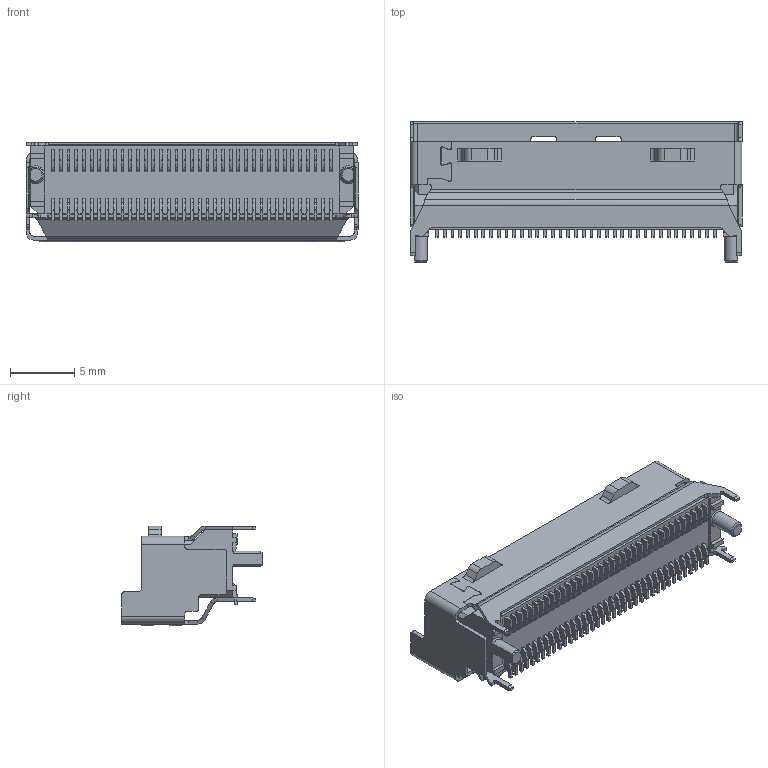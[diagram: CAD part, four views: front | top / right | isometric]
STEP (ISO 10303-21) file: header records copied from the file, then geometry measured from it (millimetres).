
FILE_DESCRIPTION((''),'2;1');
FILE_NAME('PMC074-3X0X-XXX-XH_CUSTOMER_1_1','2026-07-20T13:51:40',('39002408'),(''),'CREO PARAMETRIC BY PTC INC, 2019471','CREO PARAMETRIC BY PTC INC, 2019471','');
FILE_SCHEMA(('AUTOMOTIVE_DESIGN { 1 0 10303 214 1 1 1 1 }'));
Length unit declared in the file: millimetre
Products named in the file (1): PMC074-3X0X-XXX-XH_CUSTOMER_1_1
Bounding box: 25.8 x 10.9 x 7.77 mm (x, y, z)
Volume: 779.6 mm3; surface area: 2065.7 mm2
Topology: 1 solids, 1 shells, 1349 faces, 3626 edges, 2394 vertices
Faces by surface type: plane 1008, cylinder 315, bspline 20, cone 6
Entity records: 42838 total; most frequent: CARTESIAN_POINT 8655, ORIENTED_EDGE 7252, DIRECTION 6582, EDGE_CURVE 3626, VECTOR 2918, LINE 2918, VERTEX_POINT 2394, AXIS2_PLACEMENT_3D 1832
